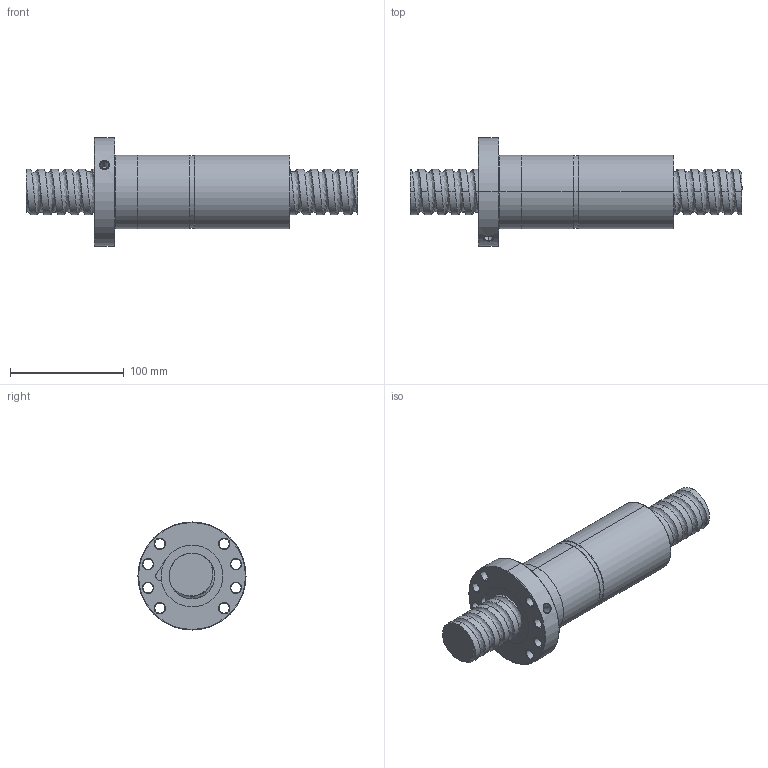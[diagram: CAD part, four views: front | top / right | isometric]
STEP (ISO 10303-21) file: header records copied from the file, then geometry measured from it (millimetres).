
FILE_DESCRIPTION (( 'STEP AP214' ), '1' );
FILE_NAME ('FDDC04012T5-F-A.STEP', '2010-07-06T05:31:09', ( 'XPAUTO' ), ( 'XPAUTO' ), 'SwSTEP 2.0', 'SolidWorks 2007', '' );
FILE_SCHEMA (( 'AUTOMOTIVE_DESIGN' ));
Length unit declared in the file: millimetre
Products named in the file (3): FDDC04012T5-F-A.sldasm-Part-1_預設; FDDC04012T5-F-A; FDDC04012T5-F-A.sldasm-Part-2_預設
Assembly tree (2 placements, depth 2):
  FDDC04012T5-F-A
    FDDC04012T5-F-A.sldasm-Part-2_預設
    FDDC04012T5-F-A.sldasm-Part-1_預設
Bounding box: 292 x 95 x 95 mm (x, y, z)
Volume: 740702.2 mm3; surface area: 118621.3 mm2
Topology: 2 solids, 2 shells, 157 faces, 393 edges, 245 vertices
Faces by surface type: cylinder 94, cone 32, plane 16, torus 10, bspline 5
Entity records: 46430 total; most frequent: CARTESIAN_POINT 42698, ORIENTED_EDGE 786, DIRECTION 729, EDGE_CURVE 393, AXIS2_PLACEMENT_3D 298, VERTEX_POINT 245, EDGE_LOOP 182, FACE_OUTER_BOUND 157
